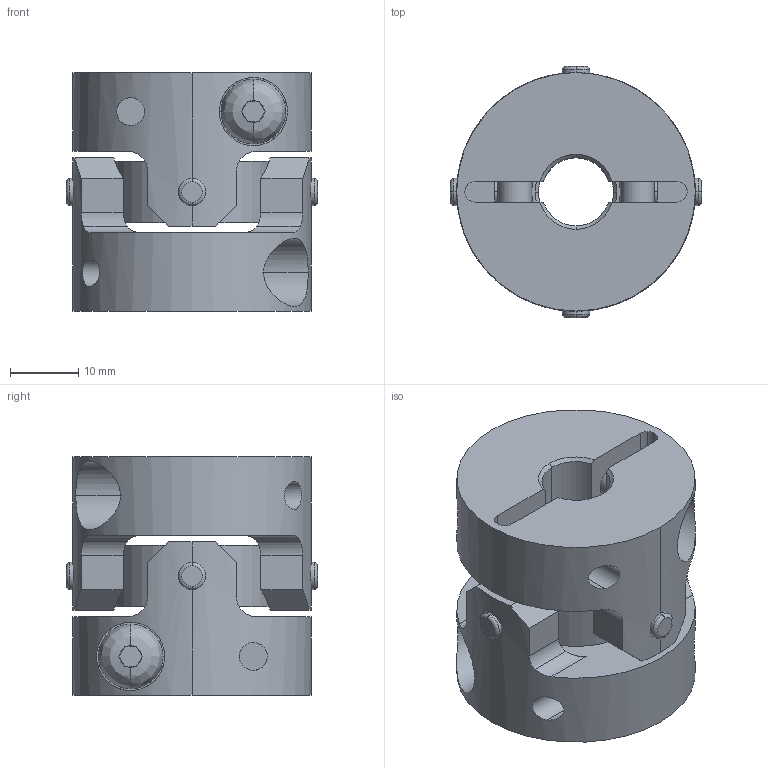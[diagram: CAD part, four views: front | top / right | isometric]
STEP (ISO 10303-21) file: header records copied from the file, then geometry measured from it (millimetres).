
FILE_DESCRIPTION((''),'2;1');
FILE_NAME('UA-35C-10×11.stp','2013-05-22T08:48:52',(''),(''),'AutoCAD STEP 2000i','AutoCAD 2000i',', , ');
FILE_SCHEMA(('CONFIG_CONTROL_DESIGN'));
Length unit declared in the file: millimetre
Products named in the file (6): UA-35C-8×8; 忣兜1; UA-3502-D08-1; BTN-M5; UA-3502-D08; UA35-SEN
Assembly tree (6 placements, depth 3):
  UA-35C-8×8
    忣兜1
    UA-3502-D08-1
      BTN-M5
    UA-3502-D08
      BTN-M5
    UA35-SEN
Bounding box: 36.83 x 36.83 x 35 mm (x, y, z)
Volume: 22685.6 mm3; surface area: 11985.6 mm2
Topology: 1 solids, 1 shells, 250 faces, 646 edges, 408 vertices
Faces by surface type: plane 122, cylinder 96, cone 16, bspline 8, torus 8
Entity records: 9647 total; most frequent: CARTESIAN_POINT 3391, ORIENTED_EDGE 1292, DIRECTION 1288, EDGE_CURVE 646, AXIS2_PLACEMENT_3D 497, VERTEX_POINT 408, VECTOR 294, LINE 294
